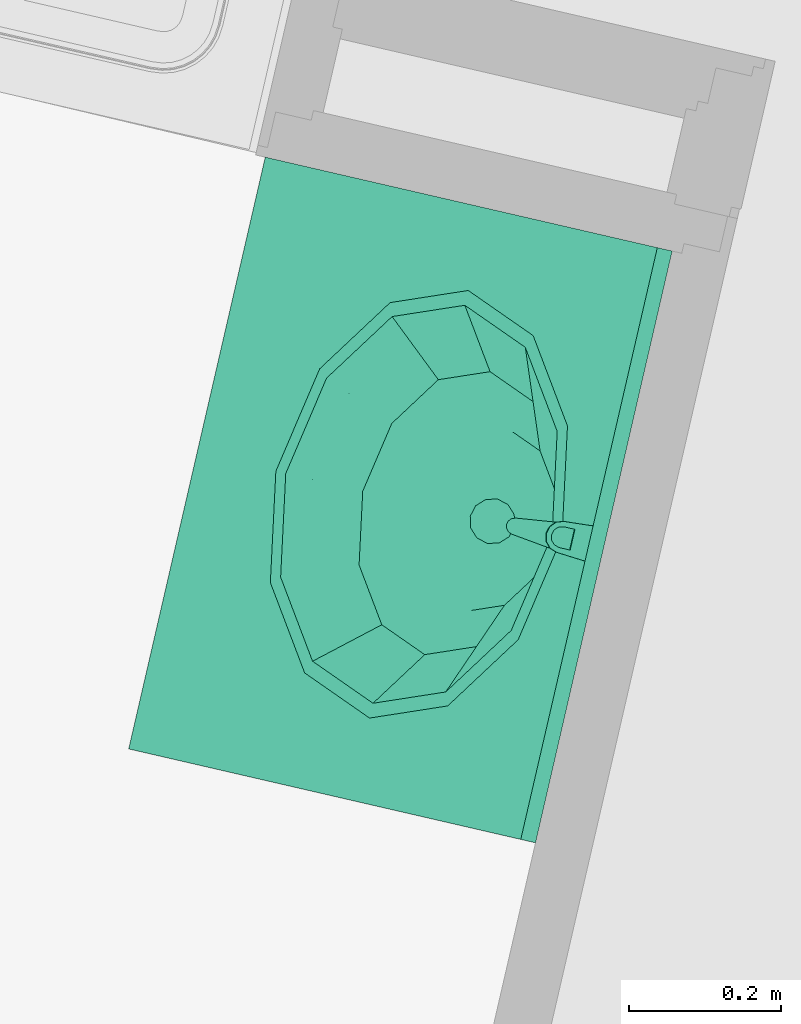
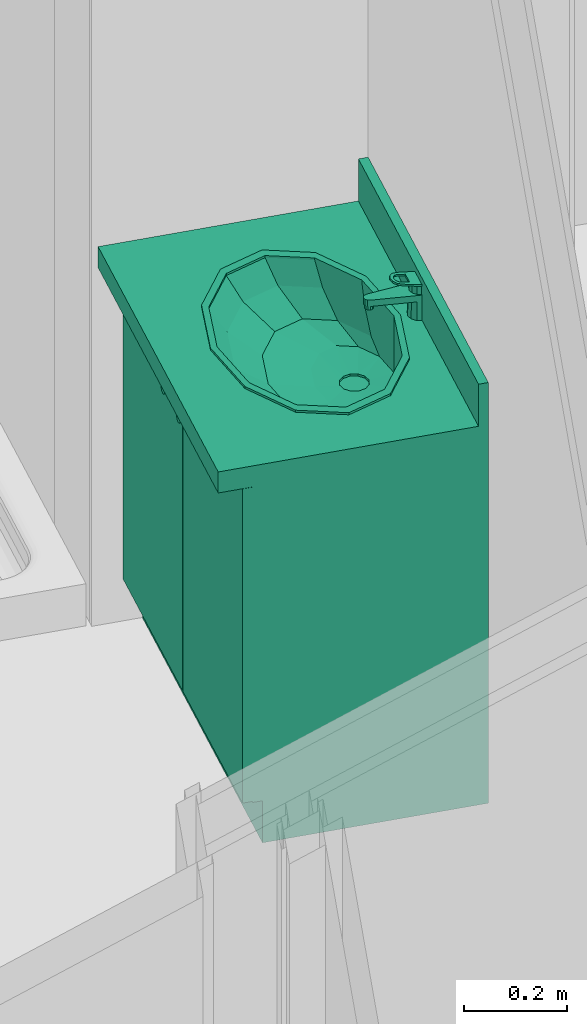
# One storey, part 75 of 90: 1 flow terminal.
"""IFC2X3 building model written with IfcOpenShell, lengths in metres."""

import ifcopenshell
import ifcopenshell.guid

model = None  # the IFC model being written
_history = None  # IfcOwnerHistory: only IFC2X3 demands one
_inside = {}  # id of a spatial element -> (the spatial element, [elements in it])
_under = {}  # id of a project, library or spatial element -> (it, [spatial elements below it])
_declared = {}  # id of a project -> (the project, [libraries it declares])
_typed = {}  # id of a type object -> (the type object, [elements of that type])
_made_of = {}  # id of a material, layer set ... -> (it, [elements and type objects made of it])


def new_model(schema):
    """Start an empty IFC model of exactly this schema.

    Asked for "IFC4X3", IfcOpenShell would pick the latest addendum, in which some entities
    have other attributes; the version numbers below select the first issue.
    IFC2X3 requires an IfcOwnerHistory on every rooted entity: one is made here for all.
    """
    global model, _history
    if schema == "IFC4X3":
        model = ifcopenshell.file(schema_version=(4, 3, 0, 0))
    else:
        model = ifcopenshell.file(schema=schema)
    _inside.clear()
    _under.clear()
    _declared.clear()
    _typed.clear()
    _made_of.clear()
    _history = None
    if model.schema == "IFC2X3":
        org = make("IfcOrganization", Name="unknown")
        user = make(
            "IfcPersonAndOrganization",
            ThePerson=make("IfcPerson", FamilyName="unknown"),
            TheOrganization=org,
        )
        app = make(
            "IfcApplication",
            ApplicationDeveloper=org,
            Version="unknown",
            ApplicationFullName="unknown",
            ApplicationIdentifier="unknown",
        )
        _history = make(
            "IfcOwnerHistory",
            OwningUser=user,
            OwningApplication=app,
            ChangeAction="ADDED",
            CreationDate=0,
        )
    return model


def make(cls, **values):
    """One entity of the class cls with the attributes given. An attribute that is None is left unset."""
    return model.create_entity(
        cls, **{name: value for name, value in values.items() if value is not None}
    )


def entity(cls, *values):
    """Any entity or typed value of the class cls, its attributes in the order of the schema. None: left unset."""
    e = model.create_entity(cls)
    for i, value in enumerate(values):
        if value is not None:
            e[i] = value
    return e


def rooted(cls, **values):
    """An entity with a GlobalId (a new one), such as an element, a storey or a relation."""
    return make(cls, GlobalId=ifcopenshell.guid.new(), OwnerHistory=_history, **values)


def si_unit(unit_type, name, prefix=None):
    """IfcSIUnit, for example si_unit("LENGTHUNIT", "METRE", prefix="MILLI")."""
    return make("IfcSIUnit", UnitType=unit_type, Prefix=prefix, Name=name)


def converted_unit(unit_type, name, factor, base, dimensions=None, offset=None):
    """IfcConversionBasedUnit, such as the inch: factor (a typed value) times the base unit."""
    return make(
        "IfcConversionBasedUnit"
        if offset is None
        else "IfcConversionBasedUnitWithOffset",
        ConversionOffset=offset,
        Dimensions=None
        if dimensions is None
        else entity("IfcDimensionalExponents", *dimensions),
        UnitType=unit_type,
        Name=name,
        ConversionFactor=make(
            "IfcMeasureWithUnit", ValueComponent=factor, UnitComponent=base
        ),
    )


def derived_unit(unit_type, elements):
    """IfcDerivedUnit: a product of units, each with its exponent."""
    return make(
        "IfcDerivedUnit",
        Elements=[
            make("IfcDerivedUnitElement", Unit=unit, Exponent=power)
            for unit, power in elements
        ],
        UnitType=unit_type,
    )


def money_unit(currency):
    """IfcMonetaryUnit."""
    return make("IfcMonetaryUnit", Currency=currency)


def assignment(units):
    """IfcUnitAssignment: the units of a project."""
    return None if units is None else make("IfcUnitAssignment", Units=units)


def point(xyz):
    """IfcCartesianPoint."""
    return None if xyz is None else make("IfcCartesianPoint", Coordinates=xyz)


def direction(xyz):
    """IfcDirection."""
    return None if xyz is None else make("IfcDirection", DirectionRatios=xyz)


def frame(location, z_axis=None, x_axis=None):
    """IfcAxis2Placement3D, a coordinate frame: its origin and axes. An axis left out is left unset."""
    return make(
        "IfcAxis2Placement3D",
        Location=point(location),
        Axis=direction(z_axis),
        RefDirection=direction(x_axis),
    )


def origin_with_axes():
    """The frame at (0, 0, 0) with the z axis (0, 0, 1) and the x axis (1, 0, 0) written out."""
    return frame((0.0, 0.0, 0.0), z_axis=(0.0, 0.0, 1.0), x_axis=(1.0, 0.0, 0.0))


def place(relative_to, where):
    """IfcLocalPlacement: puts the frame where relative to a parent placement (None: the world)."""
    return make(
        "IfcLocalPlacement", PlacementRelTo=relative_to, RelativePlacement=where
    )


def context(
    kind, dimensions, precision=None, world=None, true_north=None, identifier=None
):
    """IfcGeometricRepresentationContext, for example the 3D "Model" context."""
    return make(
        "IfcGeometricRepresentationContext",
        ContextIdentifier=identifier,
        ContextType=kind,
        CoordinateSpaceDimension=dimensions,
        Precision=precision,
        WorldCoordinateSystem=world,
        TrueNorth=true_north,
    )


def subcontext(parent, identifier, kind, view, scale=None):
    """IfcGeometricRepresentationSubContext, for example "Body" below "Model"."""
    return make(
        "IfcGeometricRepresentationSubContext",
        ContextIdentifier=identifier,
        ContextType=kind,
        ParentContext=parent,
        TargetScale=scale,
        TargetView=view,
    )


def project(units=None, contexts=None):
    """IfcProject with its units and contexts."""
    return rooted(
        "IfcProject",
        Name="project",
        RepresentationContexts=contexts,
        UnitsInContext=assignment(units),
    )


def spatial(cls, under=None, at=None, **own):
    """A site, building, storey or space (cls), placed at a placement, below another one or the project."""
    s = rooted(cls, ObjectPlacement=at, **own)
    if under is not None:
        _under.setdefault(under.id(), (under, []))[1].append(s)
    return s


def faces_of(points, faces, orient=None, outer=None):
    """IfcFace entities. A face is a list of loops; a loop is a list of indices into points, from 0.

    orient and outer hold one flag for each loop. By default every Orientation is true, the
    first loop of a face is its IfcFaceOuterBound and the others are IfcFaceBound.
    """
    made = []
    for i, loops in enumerate(faces):
        bounds = []
        for j, loop in enumerate(loops):
            is_outer = j == 0 if outer is None else outer[i][j]
            bounds.append(
                make(
                    "IfcFaceOuterBound" if is_outer else "IfcFaceBound",
                    Bound=make("IfcPolyLoop", Polygon=[points[k] for k in loop]),
                    Orientation=True if orient is None else orient[i][j],
                )
            )
        made.append(make("IfcFace", Bounds=bounds))
    return made


def open_shell(faces, orient=None, outer=None):
    """The faces of one IfcOpenShell. surface_model builds it on its shared points."""
    return ("IfcOpenShell", faces, orient, outer)


def faceted_brep(points, faces, orient=None, outer=None, voids=None):
    """IfcFacetedBrep: a solid bounded by flat faces; with voids (closed shells), ...WithVoids."""
    shared = [point(p) for p in points]
    hull = make("IfcClosedShell", CfsFaces=faces_of(shared, faces, orient, outer))
    if voids is None:
        return make("IfcFacetedBrep", Outer=hull)
    return make(
        "IfcFacetedBrepWithVoids",
        Outer=hull,
        Voids=[
            make(cls, CfsFaces=faces_of(shared, fs, o, b)) for cls, fs, o, b in voids
        ],
    )


def surface_model(cls, points, shells):
    """IfcFaceBasedSurfaceModel or IfcShellBasedSurfaceModel (cls): surfaces that need not close."""
    shared = [point(p) for p in points]
    made = [make(c, CfsFaces=faces_of(shared, fs, o, b)) for c, fs, o, b in shells]
    if cls == "IfcFaceBasedSurfaceModel":
        return make(cls, FbsmFaces=made)
    return make(cls, SbsmBoundary=made)


def shape(context_of_items, identifier, shape_type, items):
    """IfcShapeRepresentation: the items that make up one representation, for example the "Body"."""
    return make(
        "IfcShapeRepresentation",
        ContextOfItems=context_of_items,
        RepresentationIdentifier=identifier,
        RepresentationType=shape_type,
        Items=items,
    )


def source(mapping_origin, context_of_items, identifier, shape_type, items):
    """IfcRepresentationMap: a shape defined once, which mapped items show again and again."""
    return make(
        "IfcRepresentationMap",
        MappingOrigin=mapping_origin,
        MappedRepresentation=shape(context_of_items, identifier, shape_type, items),
    )


def transform(
    local_origin,
    x_axis=None,
    y_axis=None,
    z_axis=None,
    scale=None,
    scale2=None,
    scale3=None,
    uniform=True,
):
    """IfcCartesianTransformationOperator3D, or its non-uniform kind. x_axis, y_axis, z_axis: its Axis1, 2, 3."""
    if uniform:
        return make(
            "IfcCartesianTransformationOperator3D",
            Axis1=direction(x_axis),
            Axis2=direction(y_axis),
            LocalOrigin=point(local_origin),
            Scale=scale,
            Axis3=direction(z_axis),
        )
    return make(
        "IfcCartesianTransformationOperator3DnonUniform",
        Axis1=direction(x_axis),
        Axis2=direction(y_axis),
        LocalOrigin=point(local_origin),
        Scale=scale,
        Axis3=direction(z_axis),
        Scale2=scale2,
        Scale3=scale3,
    )


def mapped(mapping_source, mapping_target):
    """IfcMappedItem: shows the shape of a source again, moved by a transform."""
    return make(
        "IfcMappedItem", MappingSource=mapping_source, MappingTarget=mapping_target
    )


def made_of(thing, what):
    """Note that an element or type object is made of a material, layer set ...; save() writes the relation."""
    if what is not None:
        _made_of.setdefault(what.id(), (what, []))[1].append(thing)
    return thing


def type_object(cls, material=None, **own):
    """A type object (cls), such as IfcWallType, which elements share."""
    return made_of(rooted(cls, **own), material)


def element(
    cls,
    number,
    at=None,
    inside=None,
    cuts=None,
    type_object=None,
    material=None,
    context=None,
    identifier="Body",
    shape_type=None,
    held_by="IfcProductDefinitionShape",
    body=None,
    shapes=None,
    **own,
):
    """One element of the class cls, such as IfcWall. Its Tag is "e" and its number.

    at: its placement. inside: the storey or other place that contains it. cuts: it is an
    opening in that element (IfcRelVoidsElement). A single representation is given by context,
    identifier, shape_type and body (its items); several are given by shapes. held_by: the class
    of the entity that holds the representations. save() writes the other relations.
    """
    e = rooted(cls, Tag="e%d" % number, ObjectPlacement=at, **own)
    if body is not None:
        shapes = [shape(context, identifier, shape_type, body)]
    if shapes is not None:
        e.Representation = make(held_by, Representations=shapes)
    if inside is not None:
        _inside.setdefault(inside.id(), (inside, []))[1].append(e)
    if cuts is not None:
        rooted(
            "IfcRelVoidsElement", RelatingBuildingElement=cuts, RelatedOpeningElement=e
        )
    if type_object is not None:
        _typed.setdefault(type_object.id(), (type_object, []))[1].append(e)
    return made_of(e, material)


def aggregate(whole, parts):
    """IfcRelAggregates: a whole, such as a stair, and the parts it consists of."""
    return rooted("IfcRelAggregates", RelatingObject=whole, RelatedObjects=parts)


def save(model, path):
    """Write the relations noted so far, then the file.

    IfcRelAggregates (storeys below a building ...), IfcRelContainedInSpatialStructure (elements
    in a storey), IfcRelDefinesByType, IfcRelAssociatesMaterial and IfcRelDeclares: one each for
    every whole, place, type object, material and project.
    """
    for whole, parts in _under.values():
        aggregate(whole, parts)
    for where, things in _inside.values():
        rooted(
            "IfcRelContainedInSpatialStructure",
            RelatedElements=things,
            RelatingStructure=where,
        )
    for kind, things in _typed.values():
        rooted("IfcRelDefinesByType", RelatedObjects=things, RelatingType=kind)
    for what, things in _made_of.values():
        rooted("IfcRelAssociatesMaterial", RelatedObjects=things, RelatingMaterial=what)
    for by, libraries in _declared.values():
        rooted("IfcRelDeclares", RelatingContext=by, RelatedDefinitions=libraries)
    model.write(path)


model = new_model("IFC2X3")

# Units and contexts
model_context = context("Model", 3, precision=1e-05, world=origin_with_axes(), true_north=direction((0.0, 1.0)))
body_context = subcontext(model_context, "Body", "Model", "MODEL_VIEW")
ifc_project = project(units=[si_unit("LENGTHUNIT", "METRE"), si_unit("AREAUNIT", "SQUARE_METRE"), si_unit("VOLUMEUNIT", "CUBIC_METRE"), converted_unit("PLANEANGLEUNIT", "DEGREE", entity("IfcPlaneAngleMeasure", 0.0174532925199), si_unit("PLANEANGLEUNIT", "RADIAN"), dimensions=[0, 0, 0, 0, 0, 0, 0]), si_unit("SOLIDANGLEUNIT", "STERADIAN"), money_unit("EUR"), converted_unit("TIMEUNIT", "Year", entity("IfcTimeMeasure", 31556926.0), si_unit("TIMEUNIT", "SECOND"), dimensions=[0, 0, 1, 0, 0, 0, 0]), si_unit("MASSUNIT", "GRAM", prefix="KILO"), si_unit("THERMODYNAMICTEMPERATUREUNIT", "DEGREE_CELSIUS"), si_unit("LUMINOUSINTENSITYUNIT", "LUMEN"), si_unit("ENERGYUNIT", "JOULE", prefix="MEGA"), derived_unit("THERMALCONDUCTANCEUNIT", [(si_unit("POWERUNIT", "WATT"), 1), (si_unit("LENGTHUNIT", "METRE"), -1), (si_unit("THERMODYNAMICTEMPERATUREUNIT", "KELVIN"), -1)]), derived_unit("SPECIFICHEATCAPACITYUNIT", [(si_unit("ENERGYUNIT", "JOULE"), 1), (si_unit("MASSUNIT", "GRAM", prefix="KILO"), -1), (si_unit("THERMODYNAMICTEMPERATUREUNIT", "KELVIN"), -1)]), derived_unit("MASSDENSITYUNIT", [(si_unit("MASSUNIT", "GRAM", prefix="KILO"), 1), (si_unit("VOLUMEUNIT", "CUBIC_METRE"), -1)])], contexts=[model_context])

# Site, building, storey
site_placement = place(None, origin_with_axes())
site = spatial("IfcSite", under=ifc_project, at=site_placement, Name="Site", CompositionType="ELEMENT")
building_placement = place(site_placement, origin_with_axes())
building = spatial("IfcBuilding", under=site, at=building_placement, Name="Bâtiment", CompositionType="ELEMENT")
storey_placement = place(building_placement, frame((0.0, 0.0, 2.72), z_axis=(0.0, 0.0, 1.0), x_axis=(1.0, 0.0, 0.0)))
storey = spatial("IfcBuildingStorey", under=building, at=storey_placement, Name="R+1", CompositionType="ELEMENT", Elevation=2.72)

# Flow terminal
sanitary_terminal_type = type_object("IfcSanitaryTerminalType", Name="Lavabo sur meuble 23", PredefinedType="NOTDEFINED")
shared_shape = source(origin_with_axes(), body_context, "Body", "SurfaceModel", [
    faceted_brep([(0.0, 0.09, 0.0), (0.0, 0.09, 0.1), (-0.8, 0.09, 0.1), (-0.8, 0.09, 0.0), (0.0, 0.55, 0.0), (0.0, 0.55, 0.1), (-0.8, 0.55, 0.1), (-0.8, 0.55, 0.0)], [[[0, 1, 2, 3]], [[4, 5, 1, 0]], [[1, 5, 6, 2]], [[3, 2, 6, 7]], [[0, 3, 7, 4]], [[7, 6, 5, 4]]]),
    faceted_brep([(0.0, 0.07, 0.1), (0.0, 0.07, 0.12), (-0.02, 0.07, 0.12), (-0.02, 0.07, 0.1), (0.0, 0.55, 0.1), (0.0, 0.55, 0.12), (-0.02, 0.55, 0.12), (-0.78, 0.55, 0.12), (-0.8, 0.55, 0.12), (-0.8, 0.07, 0.12), (-0.78, 0.07, 0.12), (-0.78, 0.07, 0.1), (-0.8, 0.07, 0.1), (-0.8, 0.55, 0.1), (-0.78, 0.55, 0.1), (-0.02, 0.55, 0.1)], [[[0, 1, 2, 3]], [[4, 5, 1, 0]], [[1, 5, 6, 7, 8, 9, 10, 2]], [[3, 2, 10, 11]], [[0, 3, 11, 12, 13, 14, 15, 4]], [[15, 6, 5, 4]], [[14, 7, 6, 15]], [[13, 8, 7, 14]], [[12, 9, 8, 13]], [[11, 10, 9, 12]]]),
    faceted_brep([(0.0, 0.07, 0.12), (0.0, 0.07, 0.85), (-0.02, 0.07, 0.85), (-0.02, 0.07, 0.12), (0.0, 0.55, 0.12), (0.0, 0.55, 0.85), (-0.8, 0.55, 0.85), (-0.8, 0.07, 0.85), (-0.78, 0.07, 0.85), (-0.78, 0.53, 0.85), (-0.02, 0.53, 0.85), (-0.02, 0.53, 0.12), (-0.78, 0.53, 0.12), (-0.78, 0.07, 0.12), (-0.8, 0.07, 0.12), (-0.8, 0.55, 0.12)], [[[0, 1, 2, 3]], [[4, 5, 1, 0]], [[1, 5, 6, 7, 8, 9, 10, 2]], [[3, 2, 10, 11]], [[0, 3, 11, 12, 13, 14, 15, 4]], [[15, 6, 5, 4]], [[14, 7, 6, 15]], [[13, 8, 7, 14]], [[12, 9, 8, 13]], [[11, 10, 9, 12]]]),
    faceted_brep([(-0.78, 0.07, 0.323333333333), (-0.78, 0.07, 0.343333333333), (-0.78, 0.53, 0.343333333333), (-0.78, 0.53, 0.323333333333), (-0.02, 0.07, 0.323333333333), (-0.02, 0.07, 0.343333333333), (-0.02, 0.53, 0.343333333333), (-0.02, 0.53, 0.323333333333)], [[[0, 1, 2, 3]], [[4, 5, 1, 0]], [[1, 5, 6, 2]], [[3, 2, 6, 7]], [[0, 3, 7, 4]], [[7, 6, 5, 4]]]),
    faceted_brep([(-0.78, 0.07, 0.566666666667), (-0.78, 0.07, 0.586666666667), (-0.78, 0.53, 0.586666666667), (-0.78, 0.53, 0.566666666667), (-0.02, 0.07, 0.566666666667), (-0.02, 0.07, 0.586666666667), (-0.02, 0.53, 0.586666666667), (-0.02, 0.53, 0.566666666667)], [[[0, 1, 2, 3]], [[4, 5, 1, 0]], [[1, 5, 6, 2]], [[3, 2, 6, 7]], [[0, 3, 7, 4]], [[7, 6, 5, 4]]]),
    faceted_brep([(0.0, 0.55, 0.85), (0.0, 0.0, 0.85), (-0.8, 0.0, 0.85), (-0.8, 0.55, 0.85), (-0.535, 0.144115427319, 0.85), (-0.4, 0.12, 0.85), (-0.265, 0.144115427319, 0.85), (-0.166173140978, 0.21, 0.85), (-0.13, 0.3, 0.85), (-0.166173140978, 0.39, 0.85), (-0.265, 0.455884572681, 0.85), (-0.4, 0.48, 0.85), (-0.535, 0.455884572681, 0.85), (-0.633826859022, 0.39, 0.85), (-0.67, 0.3, 0.85), (-0.633826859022, 0.21, 0.85), (0.0, 0.55, 0.9), (0.0, 0.0, 0.9), (-0.8, 0.0, 0.9), (-0.8, 0.55, 0.9), (-0.4, 0.12, 0.9), (-0.535, 0.144115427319, 0.9), (-0.265, 0.144115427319, 0.9), (-0.166173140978, 0.21, 0.9), (-0.13, 0.3, 0.9), (-0.166173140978, 0.39, 0.9), (-0.265, 0.455884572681, 0.9), (-0.4, 0.48, 0.9), (-0.535, 0.455884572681, 0.9), (-0.633826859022, 0.39, 0.9), (-0.67, 0.3, 0.9), (-0.633826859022, 0.21, 0.9)], [[[0, 1, 2, 3], [4, 5, 6, 7, 8, 9, 10, 11, 12, 13, 14, 15]], [[1, 0, 16, 17]], [[2, 1, 17, 18]], [[3, 2, 18, 19]], [[0, 3, 19, 16]], [[20, 5, 4, 21]], [[22, 6, 5, 20]], [[23, 7, 6, 22]], [[24, 8, 7, 23]], [[25, 9, 8, 24]], [[26, 10, 9, 25]], [[27, 11, 10, 26]], [[28, 12, 11, 27]], [[29, 13, 12, 28]], [[30, 14, 13, 29]], [[31, 15, 14, 30]], [[21, 4, 15, 31]], [[18, 17, 16, 19], [28, 27, 26, 25, 24, 23, 22, 20, 21, 31, 30, 29]]]),
    faceted_brep([(0.0, 0.53, 0.9), (0.0, 0.53, 1.0), (-0.8, 0.53, 1.0), (-0.8, 0.53, 0.9), (0.0, 0.55, 0.9), (0.0, 0.55, 1.0), (-0.8, 0.55, 1.0), (-0.8, 0.55, 0.9)], [[[0, 1, 2, 3]], [[4, 5, 1, 0]], [[1, 5, 6, 2]], [[3, 2, 6, 7]], [[0, 3, 7, 4]], [[7, 6, 5, 4]]]),
    faceted_brep([(-0.689, 0.3, 0.905), (-0.650281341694, 0.396691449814, 0.905), (-0.650281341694, 0.396691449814, 0.9), (-0.689, 0.3, 0.9), (-0.650281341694, 0.203308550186, 0.905), (-0.5445, 0.132525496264, 0.905), (-0.4, 0.106617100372, 0.905), (-0.2555, 0.132525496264, 0.905), (-0.149718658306, 0.203308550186, 0.905), (-0.111, 0.3, 0.905), (-0.149718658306, 0.396691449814, 0.905), (-0.2555, 0.467474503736, 0.905), (-0.4, 0.493382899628, 0.905), (-0.5445, 0.467474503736, 0.905), (-0.669, 0.3, 0.905), (-0.632960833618, 0.39, 0.905), (-0.5345, 0.455884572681, 0.905), (-0.4, 0.48, 0.905), (-0.2655, 0.455884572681, 0.905), (-0.167039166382, 0.39, 0.905), (-0.131, 0.3, 0.905), (-0.167039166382, 0.21, 0.905), (-0.2655, 0.144115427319, 0.905), (-0.4, 0.12, 0.905), (-0.5345, 0.144115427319, 0.905), (-0.632960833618, 0.21, 0.905), (-0.5445, 0.467474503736, 0.9), (-0.4, 0.493382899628, 0.9), (-0.2555, 0.467474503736, 0.9), (-0.149718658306, 0.396691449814, 0.9), (-0.111, 0.3, 0.9), (-0.149718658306, 0.203308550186, 0.9), (-0.2555, 0.132525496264, 0.9), (-0.4, 0.106617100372, 0.9), (-0.5445, 0.132525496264, 0.9), (-0.650281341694, 0.203308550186, 0.9), (-0.669, 0.3, 0.9), (-0.632960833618, 0.21, 0.9), (-0.5345, 0.144115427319, 0.9), (-0.4, 0.12, 0.9), (-0.2655, 0.144115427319, 0.9), (-0.167039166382, 0.21, 0.9), (-0.131, 0.3, 0.9), (-0.167039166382, 0.39, 0.9), (-0.2655, 0.455884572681, 0.9), (-0.4, 0.48, 0.9), (-0.5345, 0.455884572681, 0.9), (-0.632960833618, 0.39, 0.9)], [[[0, 1, 2, 3]], [[0, 4, 5, 6, 7, 8, 9, 10, 11, 12, 13, 1], [14, 15, 16, 17, 18, 19, 20, 21, 22, 23, 24, 25]], [[1, 13, 26, 2]], [[3, 2, 26, 27, 28, 29, 30, 31, 32, 33, 34, 35], [36, 37, 38, 39, 40, 41, 42, 43, 44, 45, 46, 47]], [[4, 0, 3, 35]], [[5, 4, 35, 34]], [[6, 5, 34, 33]], [[7, 6, 33, 32]], [[8, 7, 32, 31]], [[9, 8, 31, 30]], [[10, 9, 30, 29]], [[11, 10, 29, 28]], [[12, 11, 28, 27]], [[13, 12, 27, 26]], [[15, 14, 36, 47]], [[16, 15, 47, 46]], [[17, 16, 46, 45]], [[18, 17, 45, 44]], [[19, 18, 44, 43]], [[20, 19, 43, 42]], [[21, 20, 42, 41]], [[22, 21, 41, 40]], [[23, 22, 40, 39]], [[24, 23, 39, 38]], [[25, 24, 38, 37]], [[14, 25, 37, 36]]]),
    surface_model("IfcShellBasedSurfaceModel", [(-0.4, 0.48, 0.9), (-0.5345, 0.455884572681, 0.9), (-0.52105, 0.458296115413, 0.848), (-0.4, 0.48, 0.848), (-0.632960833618, 0.39, 0.9), (-0.609664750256, 0.399, 0.848), (-0.2655, 0.455884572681, 0.9), (-0.27895, 0.458296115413, 0.848), (-0.669, 0.3, 0.9), (-0.6421, 0.318, 0.848), (-0.167039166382, 0.39, 0.9), (-0.190335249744, 0.399, 0.848), (-0.632960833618, 0.21, 0.9), (-0.609664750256, 0.237, 0.848), (-0.131, 0.3, 0.9), (-0.1579, 0.318, 0.848), (-0.5345, 0.144115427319, 0.9), (-0.52105, 0.177703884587, 0.848), (-0.167039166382, 0.21, 0.9), (-0.190335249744, 0.237, 0.848), (-0.4, 0.12, 0.9), (-0.4, 0.156, 0.848), (-0.2655, 0.144115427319, 0.9), (-0.27895, 0.177703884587, 0.848)], [open_shell([[[0, 1, 2, 3]], [[1, 4, 5, 2]], [[6, 0, 3, 7]], [[4, 8, 9, 5]], [[10, 6, 7, 11]], [[8, 12, 13, 9]], [[14, 10, 11, 15]], [[12, 16, 17, 13]], [[18, 14, 15, 19]], [[16, 20, 21, 17]], [[22, 18, 19, 23]], [[20, 22, 23, 21]]])]),
    surface_model("IfcShellBasedSurfaceModel", [(-0.4, 0.48, 0.848), (-0.52105, 0.458296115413, 0.848), (-0.4956295, 0.462853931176, 0.796), (-0.4, 0.48, 0.796), (-0.609664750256, 0.399, 0.848), (-0.565635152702, 0.41601, 0.796), (-0.27895, 0.458296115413, 0.848), (-0.3043705, 0.462853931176, 0.796), (-0.6421, 0.318, 0.848), (-0.591259, 0.35202, 0.796), (-0.190335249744, 0.399, 0.848), (-0.234364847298, 0.41601, 0.796), (-0.609664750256, 0.237, 0.848), (-0.565635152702, 0.28803, 0.796), (-0.1579, 0.318, 0.848), (-0.208741, 0.35202, 0.796), (-0.52105, 0.177703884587, 0.848), (-0.4956295, 0.241186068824, 0.796), (-0.190335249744, 0.237, 0.848), (-0.234364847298, 0.28803, 0.796), (-0.4, 0.156, 0.848), (-0.4, 0.22404, 0.796), (-0.27895, 0.177703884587, 0.848), (-0.3043705, 0.241186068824, 0.796)], [open_shell([[[0, 1, 2, 3]], [[1, 4, 5, 2]], [[6, 0, 3, 7]], [[4, 8, 9, 5]], [[10, 6, 7, 11]], [[8, 12, 13, 9]], [[14, 10, 11, 15]], [[12, 16, 17, 13]], [[18, 14, 15, 19]], [[16, 20, 21, 17]], [[22, 18, 19, 23]], [[20, 22, 23, 21]]])]),
    surface_model("IfcShellBasedSurfaceModel", [(-0.4, 0.48, 0.796), (-0.4956295, 0.462853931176, 0.796), (-0.460246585, 0.469197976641, 0.77), (-0.4, 0.48, 0.77), (-0.565635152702, 0.41601, 0.796), (-0.504350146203, 0.4396863, 0.77), (-0.3043705, 0.462853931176, 0.796), (-0.339753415, 0.469197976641, 0.77), (-0.591259, 0.35202, 0.796), (-0.52049317, 0.3993726, 0.77), (-0.234364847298, 0.41601, 0.796), (-0.295649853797, 0.4396863, 0.77), (-0.565635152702, 0.28803, 0.796), (-0.504350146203, 0.3590589, 0.77), (-0.208741, 0.35202, 0.796), (-0.27950683, 0.3993726, 0.77), (-0.4956295, 0.241186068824, 0.796), (-0.460246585, 0.329547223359, 0.77), (-0.234364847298, 0.28803, 0.796), (-0.295649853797, 0.3590589, 0.77), (-0.4, 0.22404, 0.796), (-0.4, 0.3187452, 0.77), (-0.3043705, 0.241186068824, 0.796), (-0.339753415, 0.329547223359, 0.77)], [open_shell([[[0, 1, 2, 3]], [[1, 4, 5, 2]], [[6, 0, 3, 7]], [[4, 8, 9, 5]], [[10, 6, 7, 11]], [[8, 12, 13, 9]], [[14, 10, 11, 15]], [[12, 16, 17, 13]], [[18, 14, 15, 19]], [[16, 20, 21, 17]], [[22, 18, 19, 23]], [[20, 22, 23, 21]]])]),
    surface_model("IfcShellBasedSurfaceModel", [(-0.4, 0.48, 0.77), (-0.460246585, 0.469197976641, 0.77), (-0.415, 0.425353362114, 0.763), (-0.425980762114, 0.4143726, 0.763), (-0.4, 0.4293726, 0.763), (-0.504350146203, 0.4396863, 0.77), (-0.339753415, 0.469197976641, 0.77), (-0.43, 0.3993726, 0.763), (-0.385, 0.425353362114, 0.763), (-0.52049317, 0.3993726, 0.77), (-0.295649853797, 0.4396863, 0.77), (-0.425980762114, 0.3843726, 0.763), (-0.374019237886, 0.4143726, 0.763), (-0.504350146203, 0.3590589, 0.77), (-0.27950683, 0.3993726, 0.77), (-0.415, 0.373391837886, 0.763), (-0.37, 0.3993726, 0.763), (-0.460246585, 0.329547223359, 0.77), (-0.295649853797, 0.3590589, 0.77), (-0.4, 0.3693726, 0.763), (-0.374019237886, 0.3843726, 0.763), (-0.4, 0.3187452, 0.77), (-0.339753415, 0.329547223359, 0.77), (-0.385, 0.373391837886, 0.763)], [open_shell([[[0, 1, 2]], [[1, 3, 2]], [[0, 2, 4]], [[1, 5, 3]], [[6, 0, 4]], [[5, 7, 3]], [[6, 4, 8]], [[5, 9, 7]], [[10, 6, 8]], [[9, 11, 7]], [[10, 8, 12]], [[9, 13, 11]], [[14, 10, 12]], [[13, 15, 11]], [[14, 12, 16]], [[13, 17, 15]], [[18, 14, 16]], [[17, 19, 15]], [[18, 16, 20]], [[17, 21, 19]], [[22, 18, 20]], [[21, 23, 19]], [[22, 20, 23]], [[21, 22, 23]]])]),
    surface_model("IfcShellBasedSurfaceModel", [(-0.43, 0.3993726, 0.763), (-0.425980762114, 0.4143726, 0.763), (-0.425980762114, 0.4143726, 0.758), (-0.43, 0.3993726, 0.758), (-0.415, 0.425353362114, 0.763), (-0.415, 0.425353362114, 0.758), (-0.4, 0.4293726, 0.758), (-0.385, 0.425353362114, 0.758), (-0.374019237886, 0.4143726, 0.758), (-0.37, 0.3993726, 0.758), (-0.374019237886, 0.3843726, 0.758), (-0.385, 0.373391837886, 0.758), (-0.4, 0.3693726, 0.758), (-0.415, 0.373391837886, 0.758), (-0.425980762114, 0.3843726, 0.758), (-0.425980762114, 0.3843726, 0.763), (-0.4, 0.4293726, 0.763), (-0.385, 0.425353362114, 0.763), (-0.374019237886, 0.4143726, 0.763), (-0.37, 0.3993726, 0.763), (-0.374019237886, 0.3843726, 0.763), (-0.385, 0.373391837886, 0.763), (-0.4, 0.3693726, 0.763), (-0.415, 0.373391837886, 0.763)], [open_shell([[[0, 1, 2, 3]], [[1, 4, 5, 2]], [[3, 2, 5, 6, 7, 8, 9, 10, 11, 12, 13, 14]], [[15, 0, 3, 14]], [[4, 16, 6, 5]], [[16, 17, 7, 6]], [[17, 18, 8, 7]], [[18, 19, 9, 8]], [[19, 20, 10, 9]], [[20, 21, 11, 10]], [[21, 22, 12, 11]], [[22, 23, 13, 12]], [[23, 15, 14, 13]]])]),
    faceted_brep([(-0.4125, 0.554150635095, 0.9), (-0.410587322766, 0.550837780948, 0.976507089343), (-0.4, 0.553701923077, 0.975961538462), (-0.4, 0.5575, 0.9), (-0.421650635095, 0.545, 0.9), (-0.418273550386, 0.543050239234, 0.977990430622), (-0.421, 0.5325, 0.98), (-0.418100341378, 0.522049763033, 0.981990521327), (-0.410414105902, 0.514462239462, 0.983435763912), (-0.4, 0.511698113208, 0.983962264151), (-0.389585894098, 0.514462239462, 0.983435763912), (-0.381899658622, 0.522049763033, 0.981990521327), (-0.379, 0.5325, 0.98), (-0.381726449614, 0.543050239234, 0.977990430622), (-0.389412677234, 0.550837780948, 0.976507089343), (-0.3875, 0.554150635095, 0.9), (-0.378349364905, 0.545, 0.9), (-0.375, 0.5325, 0.9), (-0.378349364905, 0.52, 0.9), (-0.3875, 0.510849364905, 0.9), (-0.4, 0.5075, 0.9), (-0.4125, 0.510849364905, 0.9), (-0.421650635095, 0.52, 0.9), (-0.425, 0.5325, 0.9)], [[[0, 1, 2, 3]], [[4, 5, 1, 0]], [[1, 5, 6, 7, 8, 9, 10, 11, 12, 13, 14, 2]], [[3, 2, 14, 15]], [[0, 3, 15, 16, 17, 18, 19, 20, 21, 22, 23, 4]], [[23, 6, 5, 4]], [[22, 7, 6, 23]], [[21, 8, 7, 22]], [[20, 9, 8, 21]], [[19, 10, 9, 20]], [[18, 11, 10, 19]], [[17, 12, 11, 18]], [[16, 13, 12, 17]], [[15, 14, 13, 16]]]),
    faceted_brep([(-0.409, 0.4295, 0.935), (-0.409, 0.4295, 0.945), (-0.407794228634, 0.434, 0.945), (-0.407794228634, 0.434, 0.935), (-0.407794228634, 0.425, 0.935), (-0.407794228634, 0.425, 0.945), (-0.4045, 0.421705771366, 0.945), (-0.4, 0.4205, 0.945), (-0.3955, 0.421705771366, 0.945), (-0.392205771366, 0.425, 0.945), (-0.391, 0.4295, 0.945), (-0.392205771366, 0.434, 0.945), (-0.3955, 0.437294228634, 0.945), (-0.4, 0.4385, 0.945), (-0.4045, 0.437294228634, 0.945), (-0.4045, 0.437294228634, 0.935), (-0.4, 0.4385, 0.935), (-0.3955, 0.437294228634, 0.935), (-0.392205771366, 0.434, 0.935), (-0.391, 0.4295, 0.935), (-0.392205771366, 0.425, 0.935), (-0.3955, 0.421705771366, 0.935), (-0.4, 0.4205, 0.935), (-0.4045, 0.421705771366, 0.935)], [[[0, 1, 2, 3]], [[4, 5, 1, 0]], [[1, 5, 6, 7, 8, 9, 10, 11, 12, 13, 14, 2]], [[3, 2, 14, 15]], [[0, 3, 15, 16, 17, 18, 19, 20, 21, 22, 23, 4]], [[23, 6, 5, 4]], [[22, 7, 6, 23]], [[21, 8, 7, 22]], [[20, 9, 8, 21]], [[19, 10, 9, 20]], [[18, 11, 10, 19]], [[17, 12, 11, 18]], [[16, 13, 12, 17]], [[15, 14, 13, 16]]]),
    faceted_brep([(-0.387128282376, 0.552756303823, 0.96), (-0.40000000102, 0.556499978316, 0.96), (-0.412871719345, 0.552756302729, 0.96), (-0.421727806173, 0.542693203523, 0.96), (-0.423805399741, 0.529450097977, 0.96), (-0.410912, 0.4281117, 0.96), (-0.409028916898, 0.423216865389, 0.96), (-0.405093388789, 0.419750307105, 0.96), (-0.400000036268, 0.41850003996, 0.96), (-0.394906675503, 0.419750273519, 0.96), (-0.390971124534, 0.423216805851, 0.96), (-0.389088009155, 0.428111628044, 0.96), (-0.3761946, 0.5294501, 0.96), (-0.378272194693, 0.54269320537, 0.96), (-0.411, 0.551552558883, 0.96), (-0.4, 0.5545, 0.96), (-0.389, 0.551552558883, 0.96), (-0.380947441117, 0.5435, 0.96), (-0.378, 0.5325, 0.96), (-0.380947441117, 0.5215, 0.96), (-0.389, 0.513447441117, 0.96), (-0.4, 0.5105, 0.96), (-0.411, 0.513447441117, 0.96), (-0.419052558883, 0.5215, 0.96), (-0.422, 0.5325, 0.96), (-0.419052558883, 0.5435, 0.96), (-0.387128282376, 0.552756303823, 0.945), (-0.40000000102, 0.556499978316, 0.945), (-0.412871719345, 0.552756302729, 0.945), (-0.421727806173, 0.542693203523, 0.945), (-0.423805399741, 0.529450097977, 0.945), (-0.410912, 0.4281117, 0.945), (-0.409028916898, 0.423216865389, 0.945), (-0.405093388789, 0.419750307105, 0.945), (-0.400000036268, 0.41850003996, 0.945), (-0.394906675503, 0.419750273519, 0.945), (-0.390971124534, 0.423216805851, 0.945), (-0.389088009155, 0.428111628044, 0.945), (-0.3761946, 0.5294501, 0.945), (-0.378272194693, 0.54269320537, 0.945), (-0.4, 0.55525, 0.945), (-0.411375, 0.552202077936, 0.945), (-0.388625, 0.552202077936, 0.945), (-0.380297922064, 0.543875, 0.945), (-0.37725, 0.5325, 0.945), (-0.380297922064, 0.521125, 0.945), (-0.388625, 0.512797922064, 0.945), (-0.4, 0.50975, 0.945), (-0.411375, 0.512797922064, 0.945), (-0.419702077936, 0.521125, 0.945), (-0.42275, 0.5325, 0.945), (-0.419702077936, 0.543875, 0.945)], [[[0, 1, 2, 3, 4, 5, 6, 7, 8, 9, 10, 11, 12, 13], [14, 15, 16, 17, 18, 19, 20, 21, 22, 23, 24, 25]], [[26, 27, 1, 0]], [[27, 28, 2, 1]], [[28, 29, 3, 2]], [[29, 30, 4, 3]], [[30, 31, 5, 4]], [[31, 32, 6, 5]], [[32, 33, 7, 6]], [[33, 34, 8, 7]], [[34, 35, 9, 8]], [[35, 36, 10, 9]], [[36, 37, 11, 10]], [[37, 38, 12, 11]], [[38, 39, 13, 12]], [[39, 26, 0, 13]], [[40, 15, 14, 41]], [[42, 16, 15, 40]], [[16, 42, 43, 17]], [[17, 43, 44, 18]], [[18, 44, 45, 19]], [[19, 45, 46, 20]], [[20, 46, 47, 21]], [[48, 22, 21, 47]], [[49, 23, 22, 48]], [[50, 24, 23, 49]], [[51, 25, 24, 50]], [[41, 14, 25, 51]], [[34, 33, 32, 31, 30, 29, 28, 27, 26, 39, 38, 37, 36, 35], [48, 47, 46, 45, 44, 43, 42, 40, 41, 51, 50, 49]]]),
    faceted_brep([(-0.423893, 0.53080743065, 0.980322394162), (-0.423893, 0.531555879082, 0.984251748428), (-0.421296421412, 0.544023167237, 0.981877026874), (-0.421296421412, 0.543274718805, 0.977947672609), (-0.420945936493, 0.490663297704, 0.987968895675), (-0.420945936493, 0.491411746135, 0.991898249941), (-0.417663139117, 0.48173408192, 0.993741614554), (-0.410061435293, 0.47478470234, 0.995065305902), (-0.399999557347, 0.472262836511, 0.995545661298), (-0.389937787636, 0.474785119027, 0.995065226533), (-0.382336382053, 0.481734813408, 0.993741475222), (-0.379054, 0.491412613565, 0.991898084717), (-0.376106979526, 0.531556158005, 0.984251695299), (-0.378703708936, 0.544023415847, 0.98187697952), (-0.38752831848, 0.553339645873, 0.980102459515), (-0.400000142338, 0.556780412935, 0.979447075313), (-0.41247192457, 0.553339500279, 0.980102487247), (-0.414, 0.507707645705, 0.988794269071), (-0.386, 0.507707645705, 0.988794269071), (-0.386, 0.492892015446, 0.991616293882), (-0.387875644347, 0.486015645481, 0.992926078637), (-0.393, 0.480981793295, 0.993884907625), (-0.4, 0.479139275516, 0.994235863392), (-0.407, 0.480981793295, 0.993884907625), (-0.412124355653, 0.486015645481, 0.992926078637), (-0.414, 0.492892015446, 0.991616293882), (-0.41247192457, 0.552591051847, 0.976173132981), (-0.400000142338, 0.556031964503, 0.975517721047), (-0.38752831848, 0.552591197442, 0.976173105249), (-0.378703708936, 0.543274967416, 0.977947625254), (-0.376106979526, 0.530807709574, 0.980322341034), (-0.379054, 0.490664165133, 0.987968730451), (-0.382336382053, 0.480986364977, 0.989812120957), (-0.389937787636, 0.474036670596, 0.991135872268), (-0.399999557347, 0.47151438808, 0.991616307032), (-0.410061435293, 0.474036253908, 0.991135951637), (-0.417663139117, 0.480985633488, 0.989812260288), (-0.414, 0.506959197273, 0.984864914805), (-0.414, 0.492143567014, 0.987686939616), (-0.412124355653, 0.485267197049, 0.988996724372), (-0.407, 0.480233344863, 0.989955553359), (-0.4, 0.478390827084, 0.990306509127), (-0.393, 0.480233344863, 0.989955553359), (-0.387875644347, 0.485267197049, 0.988996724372), (-0.386, 0.492143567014, 0.987686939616), (-0.386, 0.506959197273, 0.984864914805)], [[[0, 1, 2, 3]], [[4, 5, 1, 0]], [[1, 5, 6, 7, 8, 9, 10, 11, 12, 13, 14, 15, 16, 2], [17, 18, 19, 20, 21, 22, 23, 24, 25]], [[3, 2, 16, 26]], [[0, 3, 26, 27, 28, 29, 30, 31, 32, 33, 34, 35, 36, 4], [37, 38, 39, 40, 41, 42, 43, 44, 45]], [[36, 6, 5, 4]], [[35, 7, 6, 36]], [[34, 8, 7, 35]], [[33, 9, 8, 34]], [[32, 10, 9, 33]], [[31, 11, 10, 32]], [[30, 12, 11, 31]], [[29, 13, 12, 30]], [[28, 14, 13, 29]], [[27, 15, 14, 28]], [[26, 16, 15, 27]], [[45, 18, 17, 37]], [[44, 19, 18, 45]], [[43, 20, 19, 44]], [[42, 21, 20, 43]], [[41, 22, 21, 42]], [[40, 23, 22, 41]], [[39, 24, 23, 40]], [[38, 25, 24, 39]], [[37, 17, 25, 38]]]),
    faceted_brep([(-0.0015, 0.07, 0.1015), (-0.0015, 0.05, 0.1015), (-0.3985, 0.05, 0.1015), (-0.3985, 0.07, 0.1015), (-0.0015, 0.07, 0.8485), (-0.0015, 0.05, 0.8485), (-0.3985, 0.05, 0.8485), (-0.3985, 0.07, 0.8485)], [[[0, 1, 2, 3]], [[4, 5, 1, 0]], [[1, 5, 6, 2]], [[3, 2, 6, 7]], [[0, 3, 7, 4]], [[7, 6, 5, 4]]]),
    faceted_brep([(-0.358892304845, 0.05, 0.7855), (-0.3605, 0.05, 0.7915), (-0.358892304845, 0.05, 0.7975), (-0.3545, 0.05, 0.801892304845), (-0.3485, 0.05, 0.8035), (-0.3425, 0.05, 0.801892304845), (-0.338107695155, 0.05, 0.7975), (-0.3365, 0.05, 0.7915), (-0.338107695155, 0.05, 0.7855), (-0.3425, 0.05, 0.781107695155), (-0.3485, 0.05, 0.7795), (-0.3545, 0.05, 0.781107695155), (-0.358892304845, 0.025, 0.7855), (-0.3605, 0.025, 0.7915), (-0.358892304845, 0.025, 0.7975), (-0.3545, 0.025, 0.801892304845), (-0.3485, 0.025, 0.8035), (-0.3425, 0.025, 0.801892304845), (-0.338107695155, 0.025, 0.7975), (-0.3365, 0.025, 0.7915), (-0.338107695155, 0.025, 0.7855), (-0.3425, 0.025, 0.781107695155), (-0.3485, 0.025, 0.7795), (-0.3545, 0.025, 0.781107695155)], [[[0, 1, 2, 3, 4, 5, 6, 7, 8, 9, 10, 11]], [[0, 12, 13, 1]], [[1, 13, 14, 2]], [[2, 14, 15, 3]], [[3, 15, 16, 4]], [[4, 16, 17, 5]], [[5, 17, 18, 6]], [[6, 18, 19, 7]], [[7, 19, 20, 8]], [[8, 20, 21, 9]], [[9, 21, 22, 10]], [[10, 22, 23, 11]], [[11, 23, 12, 0]], [[12, 23, 22, 21, 20, 19, 18, 17, 16, 15, 14, 13]]]),
    faceted_brep([(-0.7985, 0.07, 0.1015), (-0.4015, 0.07, 0.1015), (-0.4015, 0.05, 0.1015), (-0.7985, 0.05, 0.1015), (-0.7985, 0.07, 0.8485), (-0.4015, 0.07, 0.8485), (-0.4015, 0.05, 0.8485), (-0.7985, 0.05, 0.8485)], [[[0, 1, 2, 3]], [[0, 4, 5, 1]], [[1, 5, 6, 2]], [[3, 2, 6, 7]], [[4, 0, 3, 7]], [[5, 4, 7, 6]]]),
    faceted_brep([(-0.441107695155, 0.05, 0.7855), (-0.4455, 0.05, 0.781107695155), (-0.4515, 0.05, 0.7795), (-0.4575, 0.05, 0.781107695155), (-0.461892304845, 0.05, 0.7855), (-0.4635, 0.05, 0.7915), (-0.461892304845, 0.05, 0.7975), (-0.4575, 0.05, 0.801892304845), (-0.4515, 0.05, 0.8035), (-0.4455, 0.05, 0.801892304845), (-0.441107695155, 0.05, 0.7975), (-0.4395, 0.05, 0.7915), (-0.441107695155, 0.025, 0.7855), (-0.4455, 0.025, 0.781107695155), (-0.4515, 0.025, 0.7795), (-0.4575, 0.025, 0.781107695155), (-0.461892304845, 0.025, 0.7855), (-0.4635, 0.025, 0.7915), (-0.461892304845, 0.025, 0.7975), (-0.4575, 0.025, 0.801892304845), (-0.4515, 0.025, 0.8035), (-0.4455, 0.025, 0.801892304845), (-0.441107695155, 0.025, 0.7975), (-0.4395, 0.025, 0.7915)], [[[0, 1, 2, 3, 4, 5, 6, 7, 8, 9, 10, 11]], [[1, 0, 12, 13]], [[2, 1, 13, 14]], [[3, 2, 14, 15]], [[4, 3, 15, 16]], [[5, 4, 16, 17]], [[6, 5, 17, 18]], [[7, 6, 18, 19]], [[8, 7, 19, 20]], [[9, 8, 20, 21]], [[10, 9, 21, 22]], [[11, 10, 22, 23]], [[0, 11, 23, 12]], [[12, 23, 22, 21, 20, 19, 18, 17, 16, 15, 14, 13]]]),
])
flow_terminal_placement = place(storey_placement, frame((-9.81288364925, -11.1722103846, 0.0), z_axis=(0.0, 0.0, 1.0), x_axis=(-0.224876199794, -0.974387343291, 0.0)))
element("IfcFlowTerminal", 1, at=flow_terminal_placement, inside=storey, type_object=sanitary_terminal_type, Name="MOB-002", ObjectType="SANITARY_TERMINAL", context=body_context, shape_type="MappedRepresentation", body=[
    mapped(shared_shape, transform((0.0, 0.0, 0.0))),
])

save(model, "model.ifc")
